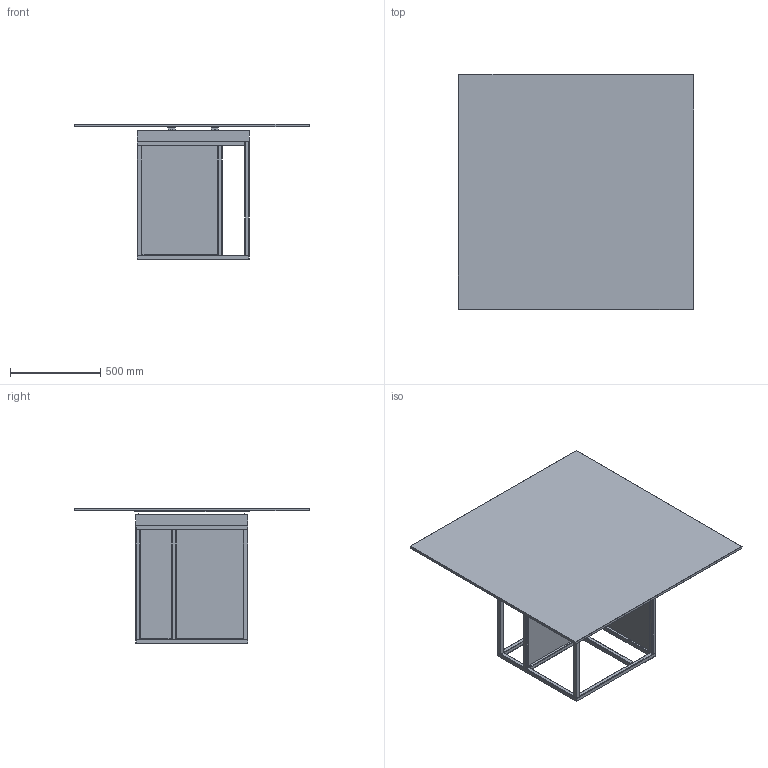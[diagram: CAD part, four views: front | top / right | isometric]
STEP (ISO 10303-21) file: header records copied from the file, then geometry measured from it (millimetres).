
FILE_DESCRIPTION(/* description */ (''),/* implementation_level */ '2;1');
FILE_NAME(/* name */ 'THEO_1~1',/* time_stamp */ '2019-07-05T15:35:59+02:00',/* author */ (''),/* organization */ (''),/* preprocessor_version */ 'ST-DEVELOPER v16.5',/* originating_system */ '',/* authorisation */ '');
FILE_SCHEMA (('CONFIG_CONTROL_DESIGN'));
Length unit declared in the file: millimetre
Products named in the file (1): Document
Bounding box: 1302.27 x 1302.27 x 750.49 mm (x, y, z)
Volume: 40090860.4 mm3; surface area: 7130451 mm2
Topology: 27 solids, 63 shells, 402 faces, 1146 edges, 816 vertices
Faces by surface type: plane 246, bspline 156
Entity records: 20605 total; most frequent: CARTESIAN_POINT 13386, ORIENTED_EDGE 2072, EDGE_CURVE 1116, B_SPLINE_CURVE_WITH_KNOTS 832, VERTEX_POINT 800, EDGE_LOOP 482, ADVANCED_FACE 402, FACE_OUTER_BOUND 402
